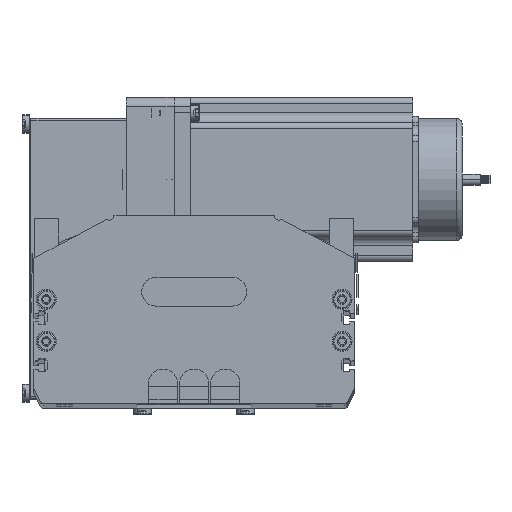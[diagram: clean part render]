
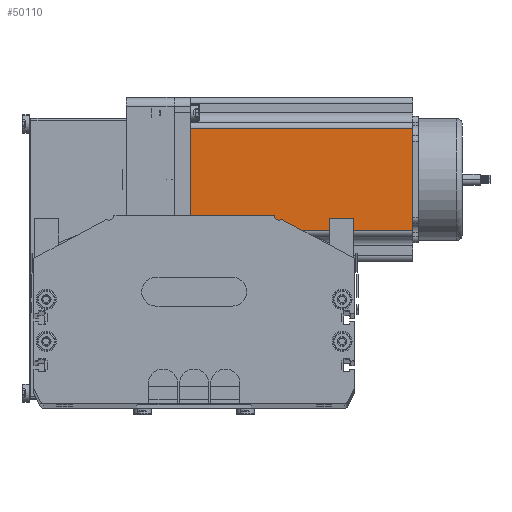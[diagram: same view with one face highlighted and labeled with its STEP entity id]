
A CAD part, top view. The second image highlights one B-rep face of the part: STEP entity #50110.
In plain terms, the highlighted planar face has unit normal (0, 0, 1) as drawn and (0, -1, 0) by its records, which use the part's own axes.
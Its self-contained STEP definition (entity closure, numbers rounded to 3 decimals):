
#50011 = EDGE_CURVE ( 'NONE', #50105, #50117, #77254, .T. ) ;
#50026 = ORIENTED_EDGE ( 'NONE', *, *, #50136, .T. ) ;
#50031 = EDGE_LOOP ( 'NONE', ( #50026, #50119, #50096, #50069 ) ) ;
#50069 = ORIENTED_EDGE ( 'NONE', *, *, #50138, .T. ) ;
#50096 = ORIENTED_EDGE ( 'NONE', *, *, #50121, .F. ) ;
#50104 = VERTEX_POINT ( 'NONE', #77356 ) ;
#50105 = VERTEX_POINT ( 'NONE', #77307 ) ;
#50110 = ADVANCED_FACE ( 'NONE', ( #77332 ), #77342, .F. ) ;
#50112 = VERTEX_POINT ( 'NONE', #77331 ) ;
#50117 = VERTEX_POINT ( 'NONE', #77334 ) ;
#50119 = ORIENTED_EDGE ( 'NONE', *, *, #50011, .T. ) ;
#50121 = EDGE_CURVE ( 'NONE', #50112, #50117, #77402, .T. ) ;
#50136 = EDGE_CURVE ( 'NONE', #50104, #50105, #77400, .T. ) ;
#50138 = EDGE_CURVE ( 'NONE', #50112, #50104, #77379, .T. ) ;
#77248 = DIRECTION ( 'NONE',  ( 0., 0., 1. ) ) ;
#77249 = VECTOR ( 'NONE', #77248, 1000. ) ;
#77253 = CARTESIAN_POINT ( 'NONE',  ( 69.74, 0., 116.5 ) ) ;
#77254 = LINE ( 'NONE', #77253, #77249 ) ;
#77307 = CARTESIAN_POINT ( 'NONE',  ( 69.74, 0., 0. ) ) ;
#77331 = CARTESIAN_POINT ( 'NONE',  ( 16.16, 0., 116.5 ) ) ;
#77332 = FACE_OUTER_BOUND ( 'NONE', #50031, .T. ) ;
#77334 = CARTESIAN_POINT ( 'NONE',  ( 69.74, 0., 116.5 ) ) ;
#77342 = PLANE ( 'NONE',  #77406 ) ;
#77356 = CARTESIAN_POINT ( 'NONE',  ( 16.16, 0., 0. ) ) ;
#77374 = DIRECTION ( 'NONE',  ( 0., 0., -1. ) ) ;
#77375 = VECTOR ( 'NONE', #77374, 1000. ) ;
#77376 = CARTESIAN_POINT ( 'NONE',  ( 16.16, 0., 116.5 ) ) ;
#77379 = LINE ( 'NONE', #77376, #77375 ) ;
#77381 = DIRECTION ( 'NONE',  ( 1., 0., 0. ) ) ;
#77382 = VECTOR ( 'NONE', #77381, 1000. ) ;
#77383 = CARTESIAN_POINT ( 'NONE',  ( 0., 0., 0. ) ) ;
#77397 = DIRECTION ( 'NONE',  ( 1., 0., 0. ) ) ;
#77398 = VECTOR ( 'NONE', #77397, 1000. ) ;
#77400 = LINE ( 'NONE', #77383, #77382 ) ;
#77401 = CARTESIAN_POINT ( 'NONE',  ( 0., 0., 116.5 ) ) ;
#77402 = LINE ( 'NONE', #77401, #77398 ) ;
#77403 = DIRECTION ( 'NONE',  ( 0., 0., 1. ) ) ;
#77404 = DIRECTION ( 'NONE',  ( 0., 1., 0. ) ) ;
#77405 = CARTESIAN_POINT ( 'NONE',  ( 0., 0., 116.5 ) ) ;
#77406 = AXIS2_PLACEMENT_3D ( 'NONE', #77405, #77404, #77403 ) ;
